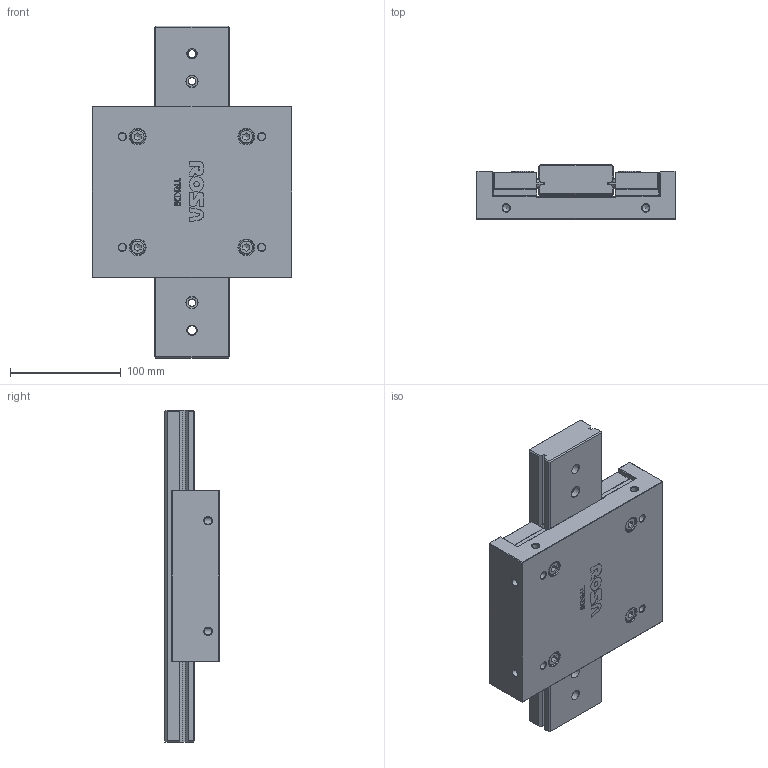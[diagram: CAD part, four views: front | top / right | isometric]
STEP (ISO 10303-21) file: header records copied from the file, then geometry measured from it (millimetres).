
FILE_DESCRIPTION(/* description */ ('TAVOLA TRKD09 L= 300 mm'),/* implementation_level */ '2;1');
FILE_NAME(/* name */ 'TRKD090300-00.stp',/* time_stamp */ '2024-01-29T13:44:32+01:00',/* author */ ('Rosa Sistemi'),/* organization */ (''),/* preprocessor_version */ 'ST-DEVELOPER v20',/* originating_system */ 'Autodesk Inventor 2024',/* authorisation */ '');
FILE_SCHEMA (('AUTOMOTIVE_DESIGN { 1 0 10303 214 3 1 1 }'));
Length unit declared in the file: millimetre
Products named in the file (2): TRKD090300-00; TRKD090300-00_1
Assembly tree (1 placements, depth 2):
  TRKD090300-00
    TRKD090300-00_1
Bounding box: 180 x 49 x 300 mm (x, y, z)
Volume: 1417079.2 mm3; surface area: 202781.3 mm2
Topology: 22 solids, 22 shells, 684 faces, 1748 edges, 1109 vertices
Faces by surface type: plane 424, cone 92, cylinder 83, bspline 31, sphere 30, torus 24
Full cylindrical faces by diameter (mm): 2 x2, 4.134 x4, 4.823 x1, 6 x8, 6.647 x19, 7 x1, 8 x1, 9 x2, 10.5 x7, 13 x4, 13.263 x1, 14 x4
Entity records: 21735 total; most frequent: CARTESIAN_POINT 4801, ORIENTED_EDGE 3352, DIRECTION 3261, EDGE_CURVE 1676, AXIS2_PLACEMENT_3D 1115, VERTEX_POINT 1109, LINE 1031, VECTOR 1031
